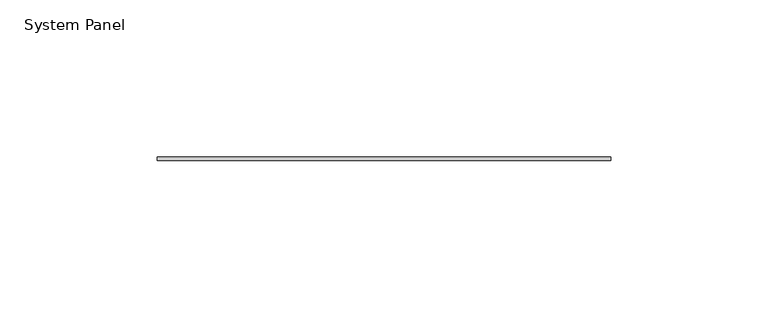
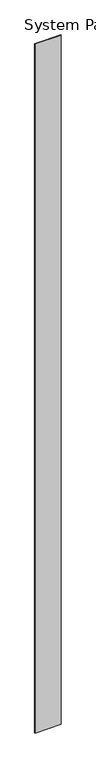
"""IFC4 building model written with IfcOpenShell, lengths in millimetres: plate geometry, System Panel : Stratco_Hiland_Interlock_Panel."""

from ifc_helpers import new_model, si_unit, origin, origin_with_axes, place, context, project, spatial, polyline, outline, extrude, source, transform, mapped, element, save


def system_panel_be85d933(model_context):
    return source(origin(), model_context, "Body", "SweptSolid", [
        extrude(outline(polyline([(71.9514014, 24.0), (-71.9514014, 24.0), (-71.9514014, 25.0), (71.9514014, 25.0), (71.9514014, 24.0)])), origin_with_axes(), (0.0, 0.0, 1.0), 4000.0),
    ])


if __name__ == "__main__":
    model = new_model("IFC4")
    model_context = context("Model", 3, world=origin())
    ifc_project = project(units=[si_unit("LENGTHUNIT", "METRE", prefix="MILLI")], contexts=[model_context])
    site = spatial("IfcSite", under=ifc_project)
    building = spatial("IfcBuilding", under=site)
    placement = place(None, origin())
    system_panel_shape = system_panel_be85d933(model_context)
    element("IfcPlate", 1, ObjectType="System Panel : Stratco_Hiland_Interlock_Panel", at=placement, inside=building, context=model_context, shape_type="MappedRepresentation", body=[
        mapped(system_panel_shape, transform((0.0, 0.0, 0.0), x_axis=(1.0, 0.0, 0.0), y_axis=(0.0, 1.0, 0.0), z_axis=(0.0, 0.0, 1.0))),
    ])
    save(model, "model.ifc")
